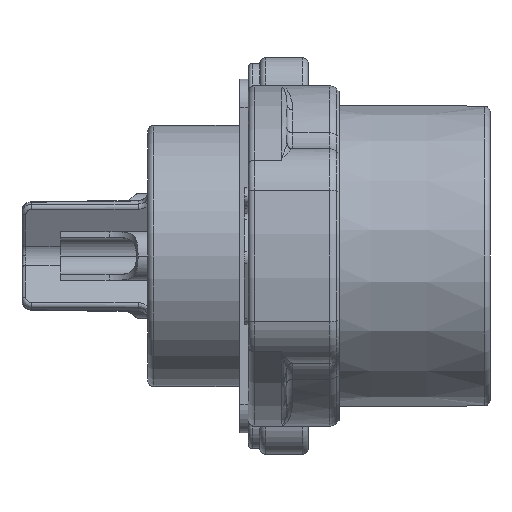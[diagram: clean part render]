
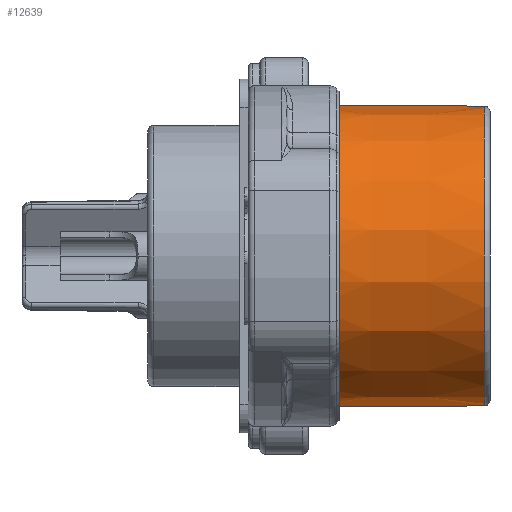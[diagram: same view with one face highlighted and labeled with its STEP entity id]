
A CAD part, front view. The second image highlights one B-rep face of the part: STEP entity #12639.
In plain terms, the highlighted conical face has half-angle 0.3 degrees and reference radius 7.75 mm.
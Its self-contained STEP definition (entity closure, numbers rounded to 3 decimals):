
#334 = ORIENTED_EDGE ( 'NONE', *, *, #6831, .T. ) ;
#2259 = EDGE_CURVE ( 'NONE', #20646, #16793, #15147, .T. ) ;
#4383 = DIRECTION ( 'NONE',  ( 1., 0., 0. ) ) ;
#6548 = DIRECTION ( 'NONE',  ( -1., 0., 0. ) ) ;
#6831 = EDGE_CURVE ( 'NONE', #37635, #32279, #13615, .T. ) ;
#7530 = AXIS2_PLACEMENT_3D ( 'NONE', #17683, #30210, #30861 ) ;
#9068 = AXIS2_PLACEMENT_3D ( 'NONE', #38925, #6548, #35699 ) ;
#9583 = CIRCLE ( 'NONE', #7530, 7.752 ) ;
#10373 = CARTESIAN_POINT ( 'NONE',  ( 0., 0., 7.75 ) ) ;
#11607 = AXIS2_PLACEMENT_3D ( 'NONE', #33958, #4383, #35176 ) ;
#11894 = CARTESIAN_POINT ( 'NONE',  ( -9.102, 0., 7.798 ) ) ;
#12639 = ADVANCED_FACE ( 'NONE', ( #21484 ), #34577, .T. ) ;
#12760 = ORIENTED_EDGE ( 'NONE', *, *, #21343, .T. ) ;
#13552 = CARTESIAN_POINT ( 'NONE',  ( -9.102, 0., -7.798 ) ) ;
#13615 = LINE ( 'NONE', #10373, #21943 ) ;
#15147 = LINE ( 'NONE', #18577, #16072 ) ;
#16072 = VECTOR ( 'NONE', #21624, 1000. ) ;
#16793 = VERTEX_POINT ( 'NONE', #13552 ) ;
#17635 = EDGE_LOOP ( 'NONE', ( #24752, #31042, #334, #12760 ) ) ;
#17653 = CARTESIAN_POINT ( 'NONE',  ( -0.298, 0., 7.752 ) ) ;
#17683 = CARTESIAN_POINT ( 'NONE',  ( -0.298, 0., 0. ) ) ;
#18577 = CARTESIAN_POINT ( 'NONE',  ( 0., 0., -7.75 ) ) ;
#20646 = VERTEX_POINT ( 'NONE', #28900 ) ;
#21343 = EDGE_CURVE ( 'NONE', #32279, #16793, #30201, .T. ) ;
#21484 = FACE_OUTER_BOUND ( 'NONE', #17635, .T. ) ;
#21624 = DIRECTION ( 'NONE',  ( -1., 0., -0.005 ) ) ;
#21943 = VECTOR ( 'NONE', #23551, 1000. ) ;
#21948 = EDGE_CURVE ( 'NONE', #20646, #37635, #9583, .T. ) ;
#23551 = DIRECTION ( 'NONE',  ( -1., 0., 0.005 ) ) ;
#24752 = ORIENTED_EDGE ( 'NONE', *, *, #2259, .F. ) ;
#28900 = CARTESIAN_POINT ( 'NONE',  ( -0.298, 0., -7.752 ) ) ;
#30201 = CIRCLE ( 'NONE', #11607, 7.798 ) ;
#30210 = DIRECTION ( 'NONE',  ( -1., 0., 0. ) ) ;
#30861 = DIRECTION ( 'NONE',  ( 0., 0., -1. ) ) ;
#31042 = ORIENTED_EDGE ( 'NONE', *, *, #21948, .T. ) ;
#32279 = VERTEX_POINT ( 'NONE', #11894 ) ;
#33958 = CARTESIAN_POINT ( 'NONE',  ( -9.102, 0., 0. ) ) ;
#34577 = CONICAL_SURFACE ( 'NONE', #9068, 7.75, 0.005 ) ;
#35176 = DIRECTION ( 'NONE',  ( 0., 0., 1. ) ) ;
#35699 = DIRECTION ( 'NONE',  ( 0., 0., 1. ) ) ;
#37635 = VERTEX_POINT ( 'NONE', #17653 ) ;
#38925 = CARTESIAN_POINT ( 'NONE',  ( 0., 0., 0. ) ) ;
